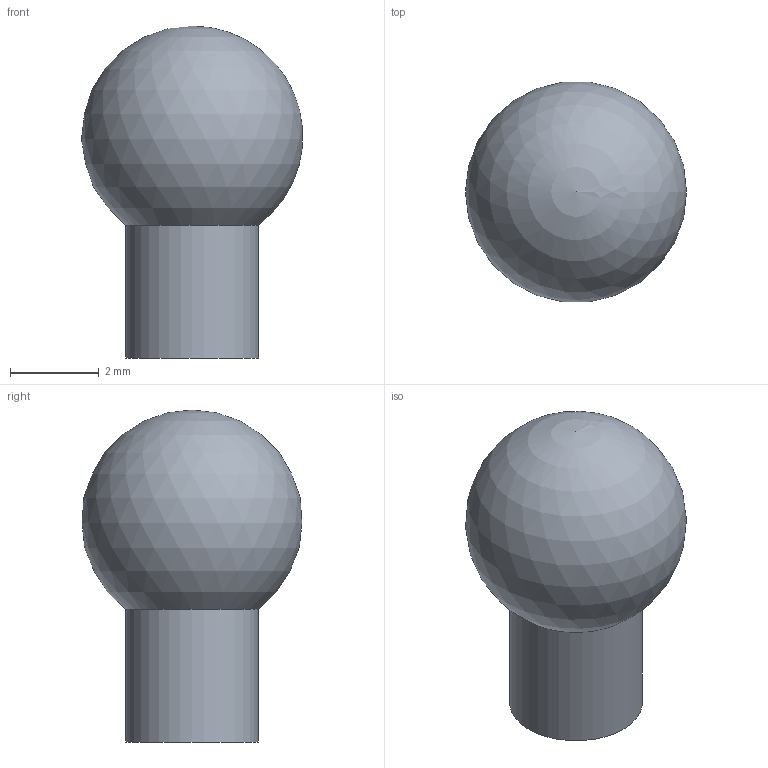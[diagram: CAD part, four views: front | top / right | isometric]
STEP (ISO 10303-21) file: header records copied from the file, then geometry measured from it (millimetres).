
FILE_DESCRIPTION(('Open CASCADE Model'),'2;1');
FILE_NAME('Open CASCADE Shape Model','2026-10-17T21:54:44',('Author'),( 'Open CASCADE'),'Open CASCADE STEP processor 7.9','Open CASCADE 7.9' ,'Unknown');
FILE_SCHEMA(('AUTOMOTIVE_DESIGN { 1 0 10303 214 1 1 1 1 }'));
Length unit declared in the file: millimetre
Products named in the file (1): Open CASCADE STEP translator 7.9 20
Bounding box: 4.99 x 4.96 x 7.5 mm (x, y, z)
Volume: 84.8 mm3; surface area: 106 mm2
Topology: 1 solids, 1 shells, 3 faces, 6 edges, 4 vertices
Faces by surface type: cylinder 1, plane 1, sphere 1
Full cylindrical faces by diameter (mm): 3 x1
Entity records: 154 total; most frequent: DIRECTION 27, CARTESIAN_POINT 23, ORIENTED_EDGE 10, PCURVE 10, DEFINITIONAL_REPRESENTATION 10, LINE 10, VECTOR 10, AXIS2_PLACEMENT_3D 8
